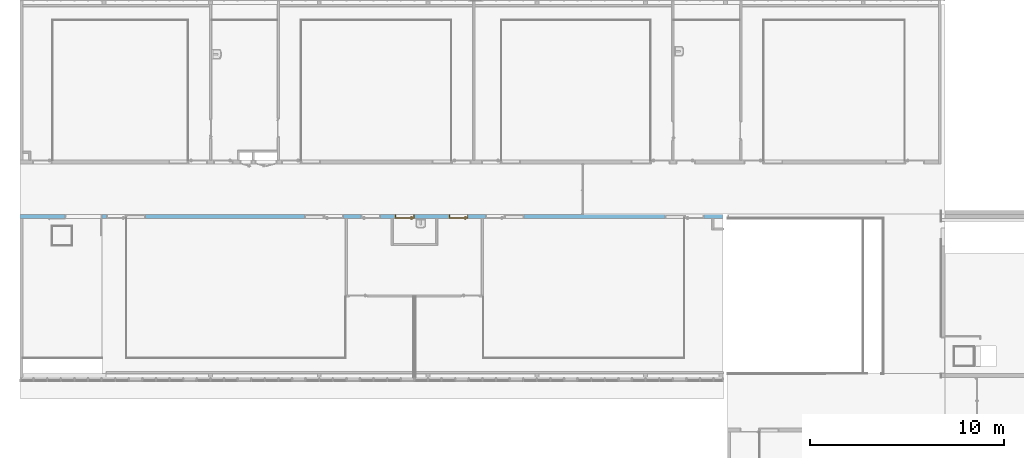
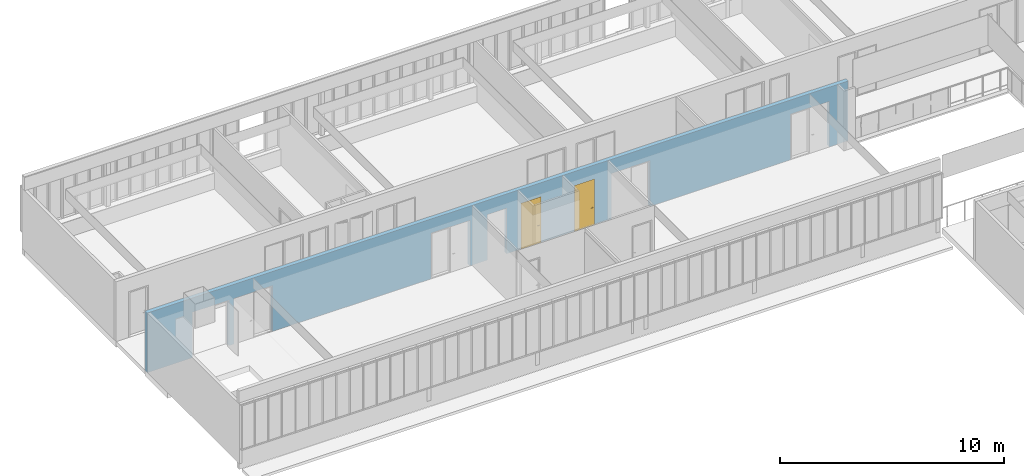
# One storey, part 33 of 87: 2 doors, 12 openings, plus 1 element that does not belong to this part.
"""IFC2X3 building model written with IfcOpenShell, lengths in centimetres."""

from ifc_helpers import new_model, entity, si_unit, converted_unit, derived_unit, direction, frame, frame_2d, origin, place, context, subcontext, project, spatial, rectangle, extrude, faceted_brep, source, transform, mapped, material, material_list, layer, layer_set, layer_usage, type_object, type_shapes, element, fill, save


model = new_model("IFC2X3")

# Units and contexts
model_context = context("Model", 3, precision=0.001, world=origin(), true_north=direction((6.12303176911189e-17, 1.0)))
body_context = subcontext(model_context, "Body", "Model", "MODEL_VIEW")
ifc_project = project(units=[si_unit("LENGTHUNIT", "METRE", prefix="CENTI"), si_unit("AREAUNIT", "SQUARE_METRE"), si_unit("VOLUMEUNIT", "CUBIC_METRE"), converted_unit("PLANEANGLEUNIT", "DEGREE", entity("IfcRatioMeasure", 0.0174532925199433), si_unit("PLANEANGLEUNIT", "RADIAN"), dimensions=[0, 0, 0, 0, 0, 0, 0]), si_unit("MASSUNIT", "GRAM", prefix="KILO"), derived_unit("MASSDENSITYUNIT", [(si_unit("MASSUNIT", "GRAM", prefix="KILO"), 1), (si_unit("LENGTHUNIT", "METRE"), -3)]), si_unit("TIMEUNIT", "SECOND"), si_unit("FREQUENCYUNIT", "HERTZ"), si_unit("THERMODYNAMICTEMPERATUREUNIT", "DEGREE_CELSIUS"), derived_unit("THERMALTRANSMITTANCEUNIT", [(si_unit("MASSUNIT", "GRAM", prefix="KILO"), 1), (si_unit("THERMODYNAMICTEMPERATUREUNIT", "KELVIN"), -1), (si_unit("TIMEUNIT", "SECOND"), -3)]), derived_unit("VOLUMETRICFLOWRATEUNIT", [(si_unit("LENGTHUNIT", "METRE"), 3), (si_unit("TIMEUNIT", "SECOND"), -1)]), si_unit("ELECTRICCURRENTUNIT", "AMPERE"), si_unit("ELECTRICVOLTAGEUNIT", "VOLT"), si_unit("POWERUNIT", "WATT"), si_unit("FORCEUNIT", "NEWTON", prefix="KILO"), si_unit("ILLUMINANCEUNIT", "LUX"), si_unit("LUMINOUSFLUXUNIT", "LUMEN"), si_unit("LUMINOUSINTENSITYUNIT", "CANDELA"), derived_unit("USERDEFINED", [(si_unit("MASSUNIT", "GRAM", prefix="KILO"), -1), (si_unit("LENGTHUNIT", "METRE"), -2), (si_unit("TIMEUNIT", "SECOND"), 3), (si_unit("LUMINOUSFLUXUNIT", "LUMEN"), 1)]), derived_unit("LINEARVELOCITYUNIT", [(si_unit("LENGTHUNIT", "METRE"), 1), (si_unit("TIMEUNIT", "SECOND"), -1)]), si_unit("PRESSUREUNIT", "PASCAL"), derived_unit("USERDEFINED", [(si_unit("LENGTHUNIT", "METRE"), -2), (si_unit("MASSUNIT", "GRAM", prefix="KILO"), 1), (si_unit("TIMEUNIT", "SECOND"), -2)])], contexts=[model_context])

# Site, building, storey
site_placement = place(None, frame((-2781.94577612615, 7442.24238424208, 0.0)))
site = spatial("IfcSite", under=ifc_project, at=site_placement, Name="Default", CompositionType="ELEMENT")
building_placement = place(site_placement, origin())
building = spatial("IfcBuilding", under=site, at=building_placement, CompositionType="ELEMENT")
storey_placement = place(building_placement, frame((0.0, 0.0, 774.0)))
storey = spatial("IfcBuildingStorey", under=building, at=storey_placement, Name="TR - N02 - ARCH", CompositionType="ELEMENT", Elevation=774.0)

# Wall, openings, doors
ifc_material_1 = material(Name="01 - Maçonnerie")
ifc_layer = layer(ifc_material_1, 20.0)
ifc_layer_set = layer_set([ifc_layer], Name="Mur de base:04 - Structure - béton - 20cm")
ifc_layer_usage = layer_usage(ifc_layer_set, "AXIS2", "NEGATIVE", 10.0)
wall_type = type_object("IfcWallType", Name="Mur de base:04 - Structure - béton - 20cm", PredefinedType="STANDARD", material=ifc_layer_set)
wall_placement = place(storey_placement, frame((-4791.99987760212, -1100.0, 0.0), z_axis=(0.0, 0.0, 1.0), x_axis=(-1.0, 0.0, 0.0)))
wall = element("IfcWallStandardCase", 1, at=wall_placement, inside=storey, type_object=wall_type, material=ifc_layer_usage, Name="Mur de base:04 - Structure - béton - 20cm", ObjectType="Mur de base:04 - Structure - béton - 20cm", context=body_context, shape_type="SweptSolid", body=[
    extrude(rectangle(XDim=3617.50000006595, YDim=20.0000000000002, at=frame_2d((1808.75000003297, -3.99680288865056e-14), x_axis=(-1.0, 0.0))), origin(), (0.0, 0.0, 1.0), 326.0),
])
opening_1_placement = place(wall_placement, frame((3071.50016406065, -10.0, 0.0)))
element("IfcOpeningElement", 2, at=opening_1_placement, cuts=wall, Name="Int. Simple:PV (0.93m x 2.50m):1", ObjectType="Opening", context=body_context, shape_type="SweptSolid", body=[
    extrude(rectangle(XDim=248.500000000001, YDim=99.9999999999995, at=frame_2d((124.250000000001, 49.9999999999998), x_axis=(1.0, 0.0))), frame((0.0, 0.0, 0.0), z_axis=(0.0, 1.0, 0.0), x_axis=(0.0, 0.0, 1.0)), (0.0, 0.0, 1.0), 20.0),
])
opening_2_placement = place(wall_placement, frame((1952.5, -10.0, 0.0)))
element("IfcOpeningElement", 3, at=opening_2_placement, cuts=wall, Name="Int. Simple:PV (0.93m x 2.50m):1", ObjectType="Opening", context=body_context, shape_type="SweptSolid", body=[
    extrude(rectangle(XDim=248.500000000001, YDim=99.9999999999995, at=frame_2d((124.250000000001, 50.0), x_axis=(1.0, 0.0))), frame((0.0, 0.0, 0.0), z_axis=(0.0, 1.0, 0.0), x_axis=(0.0, 0.0, 1.0)), (0.0, 0.0, 1.0), 20.0),
])
opening_3_placement = place(wall_placement, frame((1762.50000000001, -10.0, 0.0)))
element("IfcOpeningElement", 4, at=opening_3_placement, cuts=wall, Name="Int. Simple:PP simple (0.93m x 2.50m):1", ObjectType="Opening", context=body_context, shape_type="SweptSolid", body=[
    extrude(rectangle(XDim=248.500000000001, YDim=99.9999999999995, at=frame_2d((124.250000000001, 50.0), x_axis=(1.0, 0.0))), frame((0.0, 0.0, 0.0), z_axis=(0.0, 1.0, 0.0), x_axis=(0.0, 0.0, 1.0)), (0.0, 0.0, 1.0), 20.0),
])
opening_4_placement = place(wall_placement, frame((1310.5, -10.0, 0.0)))
opening_4 = element("IfcOpeningElement", 5, at=opening_4_placement, cuts=wall, Name="Int. Simple:PP simple (0.93m x 2.50m):1", ObjectType="Opening", context=body_context, shape_type="SweptSolid", body=[
    extrude(rectangle(XDim=248.500000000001, YDim=99.9999999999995, at=frame_2d((124.250000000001, 49.9999999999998), x_axis=(1.0, 0.0))), frame((0.0, 0.0, 0.0), z_axis=(0.0, 1.0, 0.0), x_axis=(0.0, 0.0, 1.0)), (0.0, 0.0, 1.0), 20.0),
])
opening_5_placement = place(wall_placement, frame((1587.5, -10.0, 0.0)))
opening_5 = element("IfcOpeningElement", 6, at=opening_5_placement, cuts=wall, Name="Int. Simple:PP simple (0.93m x 2.50m):1", ObjectType="Opening", context=body_context, shape_type="SweptSolid", body=[
    extrude(rectangle(XDim=248.500000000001, YDim=99.9999999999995, at=frame_2d((124.250000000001, 49.9999999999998), x_axis=(1.0, 0.0))), frame((0.0, 0.0, 0.0), z_axis=(0.0, 1.0, 0.0), x_axis=(0.0, 0.0, 1.0)), (0.0, 0.0, 1.0), 20.0),
])
opening_6_placement = place(wall_placement, frame((1122.5, -10.0, 0.0)))
element("IfcOpeningElement", 7, at=opening_6_placement, cuts=wall, Name="Int. Simple:PV (0.93m x 2.50m):1", ObjectType="Opening", context=body_context, shape_type="SweptSolid", body=[
    extrude(rectangle(XDim=248.500000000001, YDim=99.9999999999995, at=frame_2d((124.250000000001, 49.9999999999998), x_axis=(1.0, 0.0))), frame((0.0, 0.0, 0.0), z_axis=(0.0, 1.0, 0.0), x_axis=(0.0, 0.0, 1.0)), (0.0, 0.0, 1.0), 20.0),
])
opening_7_placement = place(wall_placement, frame((97.5000000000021, -10.0, 0.0)))
element("IfcOpeningElement", 8, at=opening_7_placement, cuts=wall, Name="Int. Simple:PV (0.93m x 2.50m):1", ObjectType="Opening", context=body_context, shape_type="SweptSolid", body=[
    extrude(rectangle(XDim=248.500000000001, YDim=99.9999999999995, at=frame_2d((124.250000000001, 50.0), x_axis=(1.0, 0.0))), frame((0.0, 0.0, 0.0), z_axis=(0.0, 1.0, 0.0), x_axis=(0.0, 0.0, 1.0)), (0.0, 0.0, 1.0), 20.0),
])
opening_8_placement = place(wall_placement, frame((1022.5, -10.0, 0.0)))
element("IfcOpeningElement", 9, at=opening_8_placement, cuts=wall, Name="châssis intérieur vitré:châssis intérieur vitré (h=270) R+1:1", ObjectType="Opening", context=body_context, shape_type="SweptSolid", body=[
    extrude(rectangle(XDim=250.0, YDim=99.9999999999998, at=frame_2d((125.0, 49.9999999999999), x_axis=(1.0, 0.0))), frame((0.0, 0.0, 0.0), z_axis=(0.0, 1.0, 0.0), x_axis=(0.0, 0.0, 1.0)), (0.0, 0.0, 1.0), 20.0),
])
opening_9_placement = place(wall_placement, frame((197.500000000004, -10.0, 0.0)))
element("IfcOpeningElement", 10, at=opening_9_placement, cuts=wall, Name="châssis intérieur vitré:châssis intérieur vitré (h=270) R+1:1", ObjectType="Opening", context=body_context, shape_type="SweptSolid", body=[
    extrude(rectangle(XDim=250.0, YDim=99.9999999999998, at=frame_2d((125.0, 49.9999999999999), x_axis=(1.0, 0.0))), frame((0.0, 0.0, 0.0), z_axis=(0.0, 1.0, 0.0), x_axis=(0.0, 0.0, 1.0)), (0.0, 0.0, 1.0), 20.0),
])
opening_10_placement = place(wall_placement, frame((2052.5, -10.0, 0.0)))
element("IfcOpeningElement", 11, at=opening_10_placement, cuts=wall, Name="châssis intérieur vitré:châssis intérieur vitré (h=270) R+1:1", ObjectType="Opening", context=body_context, shape_type="SweptSolid", body=[
    extrude(rectangle(XDim=250.0, YDim=99.9999999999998, at=frame_2d((125.0, 49.9999999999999), x_axis=(1.0, 0.0))), frame((0.0, 0.0, 0.0), z_axis=(0.0, 1.0, 0.0), x_axis=(0.0, 0.0, 1.0)), (0.0, 0.0, 1.0), 20.0),
])
opening_11_placement = place(wall_placement, frame((2971.50016406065, -10.0, 0.0)))
element("IfcOpeningElement", 12, at=opening_11_placement, cuts=wall, Name="châssis intérieur vitré:châssis intérieur vitré (h=270) R+1:1", ObjectType="Opening", context=body_context, shape_type="SweptSolid", body=[
    extrude(rectangle(XDim=250.0, YDim=99.9999999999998, at=frame_2d((125.0, 49.9999999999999), x_axis=(1.0, 0.0))), frame((0.0, 0.0, 0.0), z_axis=(0.0, 1.0, 0.0), x_axis=(0.0, 0.0, 1.0)), (0.0, 0.0, 1.0), 20.0),
])
opening_12_placement = place(wall_placement, frame((3196.0, -10.0, 0.0)))
element("IfcOpeningElement", 13, at=opening_12_placement, cuts=wall, Name="Int. Double:PP (1.83m x 2.04m):1", ObjectType="Opening", context=body_context, shape_type="SweptSolid", body=[
    extrude(rectangle(XDim=248.500000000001, YDim=190.0, at=frame_2d((124.250000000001, 95.0000000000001), x_axis=(1.0, 0.0))), frame((0.0, 0.0, 0.0), z_axis=(0.0, 1.0, 0.0), x_axis=(0.0, 0.0, 1.0)), (0.0, 0.0, 1.0), 20.0),
])
ifc_material_2 = material(Name="Finition Peinture - Blanc satiné")
ifc_material_3 = material(Name="Bois - Panneau de porte")
ifc_material_4 = material(Name="Bois - Cadre de porte")
ifc_material_list_1 = material_list([ifc_material_2, ifc_material_3, ifc_material_4])
ifc_material_list_2 = material_list([ifc_material_2, ifc_material_3, ifc_material_4])
door_style = type_object("IfcDoorStyle", Name="PP simple (0.93m x 2.50m)", ConstructionType="NOTDEFINED", OperationType="SINGLE_SWING_RIGHT", ParameterTakesPrecedence=False, Sizeable=False, material=ifc_material_list_2)
shared_shape = source(origin(), body_context, "Body", "Brep", [
    faceted_brep([(99.5000000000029, -0.500000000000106, 87.0), (99.5000000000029, -0.500000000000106, 108.0), (98.535276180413, -0.500000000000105, 108.399601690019), (97.5000000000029, -0.500000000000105, 108.535898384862), (96.4647238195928, -0.500000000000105, 108.399601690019), (95.500000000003, -0.500000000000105, 108.0), (95.5000000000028, -0.500000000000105, 87.0), (96.4647238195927, -0.500000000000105, 86.6003983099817), (97.5000000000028, -0.500000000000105, 86.464101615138), (98.5352761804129, -0.500000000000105, 86.6003983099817), (99.5000000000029, 0.0, 108.0), (99.5000000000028, 0.0, 87.0), (98.5352761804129, 0.0, 86.6003983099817), (97.5000000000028, 0.0, 86.464101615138), (96.4647238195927, 0.0, 86.6003983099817), (95.5000000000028, 0.0, 87.0), (95.5000000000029, 0.0, 108.0), (96.4647238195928, 0.0, 108.399601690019), (97.5000000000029, 0.0, 108.535898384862), (98.535276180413, 0.0, 108.399601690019)], [[[0, 1, 2, 3, 4, 5, 6, 7, 8, 9]], [[10, 11, 12, 13, 14, 15, 16, 17, 18, 19]], [[9, 12, 11, 0]], [[8, 13, 12, 9]], [[7, 14, 13, 8]], [[7, 6, 15, 14]], [[15, 6, 5, 16]], [[4, 17, 16, 5]], [[3, 18, 17, 4]], [[2, 19, 18, 3]], [[2, 1, 10, 19]], [[11, 10, 1, 0]]]),
    faceted_brep([(99.5000000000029, 4.0, 87.0), (99.5000000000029, 4.0, 108.0), (98.535276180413, 4.0, 108.399601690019), (97.5000000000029, 4.0, 108.535898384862), (96.4647238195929, 4.0, 108.399601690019), (95.500000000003, 4.0, 108.0), (95.5000000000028, 4.0, 87.0), (96.4647238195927, 4.0, 86.6003983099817), (97.5000000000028, 4.0, 86.464101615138), (98.5352761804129, 4.0, 86.6003983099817), (97.5000000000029, 4.49999999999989, 108.535898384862), (98.535276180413, 4.49999999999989, 108.399601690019), (99.5000000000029, 4.49999999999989, 108.0), (99.5000000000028, 4.49999999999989, 87.0), (98.5352761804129, 4.49999999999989, 86.6003983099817), (97.5000000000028, 4.49999999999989, 86.464101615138), (96.4647238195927, 4.49999999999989, 86.6003983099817), (95.5000000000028, 4.49999999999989, 87.0), (95.500000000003, 4.49999999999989, 108.0), (96.4647238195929, 4.49999999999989, 108.399601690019)], [[[0, 1, 2, 3, 4, 5, 6, 7, 8, 9]], [[10, 11, 12, 13, 14, 15, 16, 17, 18, 19]], [[4, 19, 18, 5]], [[3, 10, 19, 4]], [[2, 11, 10, 3]], [[2, 1, 12, 11]], [[13, 12, 1, 0]], [[9, 14, 13, 0]], [[8, 15, 14, 9]], [[7, 16, 15, 8]], [[7, 6, 17, 16]], [[17, 6, 5, 18]]]),
    faceted_brep([(97.2974701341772, -0.500000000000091, 100.778044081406), (97.7025298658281, -0.500000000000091, 100.778044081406), (98.1000000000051, -0.500000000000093, 100.699999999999), (98.100000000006, -0.500000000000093, 99.2999999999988), (97.7025298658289, -0.500000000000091, 99.221955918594), (97.297470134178, -0.500000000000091, 99.2219559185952), (96.9000000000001, -0.500000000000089, 99.3000000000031), (96.9000000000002, -0.500000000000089, 100.7), (97.7025298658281, -3.10045754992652, 100.778044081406), (98.1000000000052, -3.26509507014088, 100.7), (97.2974701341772, -2.93267631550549, 100.778044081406), (95.9298602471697, -4.30028620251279, 100.778044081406), (96.0976414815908, -4.70534593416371, 100.778044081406), (96.9000000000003, -2.76803879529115, 100.7), (96.9000000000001, -2.76803879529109, 99.3000000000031), (97.297470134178, -2.93267631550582, 99.2219559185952), (97.7025298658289, -3.10045754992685, 99.221955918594), (96.0976414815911, -4.70534593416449, 99.221955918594), (95.9298602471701, -4.30028620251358, 99.2219559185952), (98.100000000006, -3.26509507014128, 99.2999999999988), (96.2622790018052, -5.1028160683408, 100.7), (95.7652227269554, -3.90281606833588, 100.7), (95.7652227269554, -3.90281606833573, 99.3000000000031), (96.2622790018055, -5.10281606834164, 99.2999999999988), (87.4981359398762, -5.10281606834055, 100.7), (87.4981359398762, -4.70534593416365, 100.778044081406), (87.4981359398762, -4.30028620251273, 100.778044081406), (87.4981359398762, -3.90281606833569, 100.699999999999), (87.4981359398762, -3.90281606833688, 99.3000000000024), (87.4981359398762, -4.30028620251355, 99.2219559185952), (87.4981359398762, -4.70534593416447, 99.221955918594), (87.4981359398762, -5.10281606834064, 99.2999999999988), (91.7139980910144, -4.5028160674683, 100.78786867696), (92.2692302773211, -5.1028160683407, 100.7), (91.6316793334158, -3.9028160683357, 100.7), (91.631679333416, -3.90281606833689, 99.3000000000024), (91.7139981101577, -4.50281607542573, 99.2121313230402), (92.2692310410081, -5.10281606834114, 99.2999999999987)], [[[0, 1, 2, 3, 4, 5, 6, 7]], [[2, 1, 8, 9]], [[1, 0, 10, 11, 12, 8]], [[0, 7, 13, 10]], [[14, 13, 7, 6]], [[5, 15, 14, 6]], [[5, 4, 16, 17, 18, 15]], [[3, 19, 16, 4]], [[9, 19, 3, 2]], [[9, 8, 12, 20]], [[10, 13, 21, 11]], [[22, 21, 13, 14]], [[14, 15, 18, 22]], [[16, 19, 23, 17]], [[20, 23, 19, 9]], [[24, 25, 26, 27, 28, 29, 30, 31]], [[32, 25, 33]], [[33, 25, 24]], [[33, 20, 12]], [[11, 34, 32]], [[34, 11, 21]], [[27, 26, 34]], [[32, 26, 25]], [[32, 34, 26]], [[32, 33, 12]], [[11, 32, 12]], [[21, 22, 35, 28, 27, 34]], [[36, 29, 35]], [[30, 36, 37]], [[18, 35, 22]], [[29, 28, 35]], [[30, 37, 31]], [[37, 17, 23]], [[36, 17, 37]], [[36, 18, 17]], [[36, 35, 18]], [[29, 36, 30]], [[23, 20, 33, 24, 31, 37]]]),
    faceted_brep([(97.2974701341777, 4.49999999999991, 99.2219559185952), (97.7025298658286, 4.49999999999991, 99.221955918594), (98.1000000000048, 4.4999999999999, 99.2999999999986), (98.1000000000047, 4.4999999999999, 100.7), (97.7025298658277, 4.49999999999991, 100.778044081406), (97.2974701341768, 4.49999999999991, 100.778044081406), (96.8999999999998, 4.49999999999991, 100.7), (96.900000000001, 4.49999999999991, 99.3000000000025), (96.8999999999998, 6.7485204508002, 100.7), (96.8999999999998, 6.74852045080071, 99.3000000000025), (97.2974701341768, 6.91315797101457, 100.778044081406), (97.7025298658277, 7.0809392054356, 100.778044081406), (96.0838906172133, 8.69957845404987, 100.778044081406), (95.9161093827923, 8.29451872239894, 100.778044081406), (98.1000000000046, 7.24557672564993, 100.7), (98.1000000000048, 7.24557672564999, 99.2999999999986), (97.7025298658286, 7.08093920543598, 99.221955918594), (97.2974701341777, 6.91315797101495, 99.2219559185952), (95.9161093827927, 8.29451872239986, 99.2219559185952), (96.0838906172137, 8.69957845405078, 99.221955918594), (95.751471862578, 7.89704858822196, 100.7), (95.7514718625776, 7.89704858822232, 99.3000000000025), (96.2485281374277, 9.09704858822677, 100.7), (96.2485281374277, 9.09704858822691, 99.2999999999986), (87.4954216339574, 8.29451872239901, 100.778044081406), (87.4954216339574, 8.69957845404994, 100.778044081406), (87.4954216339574, 9.09704858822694, 100.7), (87.4954216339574, 9.09704858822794, 99.2999999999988), (87.4954216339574, 8.6995784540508, 99.221955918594), (87.4954216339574, 8.29451872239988, 99.2219559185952), (87.4954216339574, 7.89704858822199, 99.3000000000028), (87.4954216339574, 7.89704858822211, 100.7), (91.6234467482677, 7.89704858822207, 100.7), (91.6234479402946, 7.89704858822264, 99.3000000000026), (91.7057655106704, 8.49704858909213, 100.78786867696), (92.255479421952, 9.09704858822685, 100.7), (92.2554795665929, 9.09704858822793, 99.2999999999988), (91.7057654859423, 8.49704858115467, 99.2121313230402)], [[[0, 1, 2, 3, 4, 5, 6, 7]], [[8, 9, 7, 6]], [[5, 10, 8, 6]], [[5, 4, 11, 12, 13, 10]], [[3, 14, 11, 4]], [[14, 3, 2, 15]], [[2, 1, 16, 15]], [[1, 0, 17, 18, 19, 16]], [[0, 7, 9, 17]], [[20, 21, 9, 8]], [[8, 10, 13, 20]], [[14, 22, 12, 11]], [[23, 22, 14, 15]], [[15, 16, 19, 23]], [[17, 9, 21, 18]], [[24, 25, 26, 27, 28, 29, 30, 31]], [[21, 20, 32, 31, 30, 33]], [[34, 24, 32]], [[25, 34, 35]], [[13, 32, 20]], [[24, 31, 32]], [[25, 35, 26]], [[35, 12, 22]], [[34, 12, 35]], [[34, 13, 12]], [[34, 32, 13]], [[24, 34, 25]], [[22, 23, 36, 27, 26, 35]], [[37, 28, 36]], [[36, 28, 27]], [[36, 23, 19]], [[18, 33, 37]], [[33, 18, 21]], [[30, 29, 33]], [[37, 29, 28]], [[37, 33, 29]], [[37, 36, 19]], [[18, 37, 19]]]),
    faceted_brep([(103.500000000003, 4.0, 245.0), (103.500000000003, 4.0, 0.0), (10.5000000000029, 4.0, 0.0), (10.5000000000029, 4.0, 245.0), (103.500000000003, 0.0, 245.0), (10.5000000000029, 0.0, 245.0), (10.5000000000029, 0.0, 0.0), (103.500000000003, 0.0, 0.0)], [[[0, 1, 2, 3]], [[4, 5, 6, 7]], [[3, 5, 4, 0]], [[2, 6, 5, 3]], [[1, 7, 6, 2]], [[0, 4, 7, 1]]]),
    faceted_brep([(107.0, 20.0, 0.0), (107.0, 0.0, 0.0), (108.500000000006, 0.0, 0.0), (108.500000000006, -0.500000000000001, 0.0), (103.500000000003, -0.500000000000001, 0.0), (103.500000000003, 4.0, 0.0), (102.0, 4.0, 0.0), (102.0, 20.5000000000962, 0.0), (108.500000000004, 20.5000000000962, 0.0), (108.500000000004, 20.0, 0.0), (107.0, 20.0, 248.500000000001), (107.0, 0.0, 248.500000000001), (108.500000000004, 20.0, 250.0), (5.50000000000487, 20.0, 250.0), (5.50000000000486, 20.0, 0.0), (7.0, 20.0, 0.0), (7.0, 20.0, 248.500000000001), (102.0, 4.0, 243.5), (102.0, 20.5000000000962, 243.5), (103.500000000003, 4.0, 245.0), (10.5000000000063, 4.0, 245.0), (10.5000000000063, 4.0, 0.0), (12.0, 4.0, 0.0), (12.0, 4.0, 243.5), (7.0, 0.0, 0.0), (7.0, 0.0, 248.500000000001), (5.50000000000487, 20.5000000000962, 0.0), (12.0, 20.5000000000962, 0.0), (10.5000000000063, -0.500000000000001, 0.0), (5.5000000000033, -0.500000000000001, 0.0), (5.5000000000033, 0.0, 0.0), (12.0, 20.5000000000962, 243.5), (103.500000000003, -0.500000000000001, 245.0), (108.500000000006, -0.500000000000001, 250.0), (5.5000000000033, -0.500000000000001, 250.0), (10.5000000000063, -0.500000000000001, 245.0), (108.500000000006, 0.0, 250.0), (5.50000000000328, 0.0, 250.0), (108.500000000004, 20.5000000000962, 250.0), (5.50000000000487, 20.5000000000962, 250.0)], [[[0, 1, 2, 3, 4, 5, 6, 7, 8, 9]], [[0, 10, 11, 1]], [[9, 12, 13, 14, 15, 16, 10, 0]], [[7, 6, 17, 18]], [[5, 19, 20, 21, 22, 23, 17, 6]], [[16, 15, 24, 25]], [[15, 14, 26, 27, 22, 21, 28, 29, 30, 24]], [[23, 22, 27, 31]], [[10, 16, 25, 11]], [[17, 23, 31, 18]], [[5, 4, 32, 19]], [[3, 33, 34, 29, 28, 35, 32, 4]], [[2, 36, 33, 3]], [[1, 11, 25, 24, 30, 37, 36, 2]], [[8, 38, 12, 9]], [[7, 18, 31, 27, 26, 39, 38, 8]], [[35, 28, 21, 20]], [[37, 30, 29, 34]], [[39, 26, 14, 13]], [[32, 35, 20, 19]], [[36, 37, 34, 33]], [[38, 39, 13, 12]]]),
])
type_shapes(door_style, [shared_shape])
door_1_placement = place(opening_4_placement, frame((107.0, 20.0, 0.0), z_axis=(0.0, 0.0, 1.0), x_axis=(-1.0, 0.0, 0.0)))
door_1 = element("IfcDoor", 14, at=door_1_placement, inside=storey, type_object=door_style, material=ifc_material_list_1, Name="Int. Simple:PP simple (0.93m x 2.50m)", ObjectType="Int. Simple:PP simple (0.93m x 2.50m)", OverallHeight=248.500000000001, OverallWidth=99.9999999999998, context=body_context, shape_type="MappedRepresentation", body=[
    mapped(shared_shape, transform((0.0, 0.0, 0.0), scale=1.0)),
])
fill(opening_4, door_1)
ifc_material_list_3 = material_list([ifc_material_2, ifc_material_3, ifc_material_4])
door_2_placement = place(opening_5_placement, frame((107.0, 20.0, 0.0), z_axis=(0.0, 0.0, 1.0), x_axis=(-1.0, 0.0, 0.0)))
door_2 = element("IfcDoor", 15, at=door_2_placement, inside=storey, type_object=door_style, material=ifc_material_list_3, Name="Int. Simple:PP simple (0.93m x 2.50m)", ObjectType="Int. Simple:PP simple (0.93m x 2.50m)", OverallHeight=248.500000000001, OverallWidth=99.9999999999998, context=body_context, shape_type="MappedRepresentation", body=[
    mapped(shared_shape, transform((0.0, 0.0, 0.0), scale=1.0)),
])
fill(opening_5, door_2)

save(model, "model.ifc")
